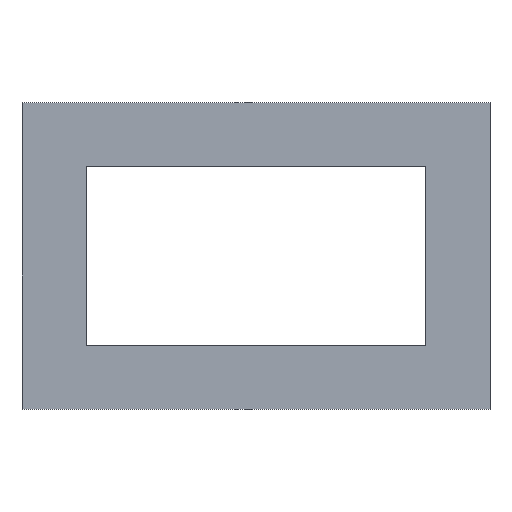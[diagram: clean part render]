
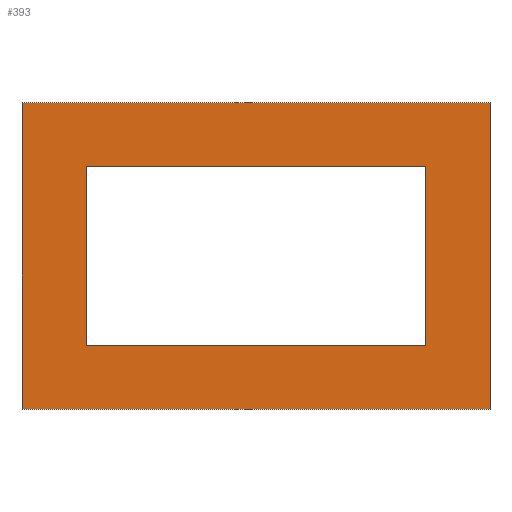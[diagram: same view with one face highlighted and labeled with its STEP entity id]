
A CAD part, top view. The second image highlights one B-rep face of the part: STEP entity #393.
In plain terms, the highlighted planar face has unit normal (0, 0, 1).
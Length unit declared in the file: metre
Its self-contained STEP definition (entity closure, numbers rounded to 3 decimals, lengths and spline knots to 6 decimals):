
#80=ORIENTED_EDGE('',*,*,#161,.T.);
#81=ORIENTED_EDGE('',*,*,#167,.T.);
#82=ORIENTED_EDGE('',*,*,#165,.F.);
#83=ORIENTED_EDGE('',*,*,#163,.F.);
#84=ORIENTED_EDGE('',*,*,#157,.T.);
#85=ORIENTED_EDGE('',*,*,#145,.T.);
#86=ORIENTED_EDGE('',*,*,#159,.F.);
#87=ORIENTED_EDGE('',*,*,#136,.F.);
#136=EDGE_CURVE('',#188,#189,#226,.T.);
#145=EDGE_CURVE('',#197,#196,#235,.T.);
#157=EDGE_CURVE('',#188,#197,#247,.T.);
#159=EDGE_CURVE('',#189,#196,#249,.T.);
#161=EDGE_CURVE('',#207,#206,#251,.T.);
#163=EDGE_CURVE('',#207,#208,#253,.T.);
#165=EDGE_CURVE('',#208,#209,#255,.T.);
#167=EDGE_CURVE('',#206,#209,#257,.T.);
#188=VERTEX_POINT('',#565);
#189=VERTEX_POINT('',#567);
#196=VERTEX_POINT('',#583);
#197=VERTEX_POINT('',#585);
#206=VERTEX_POINT('',#613);
#207=VERTEX_POINT('',#615);
#208=VERTEX_POINT('',#619);
#209=VERTEX_POINT('',#623);
#226=LINE('',#566,#280);
#235=LINE('',#584,#289);
#247=LINE('',#607,#301);
#249=LINE('',#610,#303);
#251=LINE('',#614,#305);
#253=LINE('',#618,#307);
#255=LINE('',#622,#309);
#257=LINE('',#626,#311);
#280=VECTOR('',#459,1.);
#289=VECTOR('',#470,1.);
#301=VECTOR('',#486,1.);
#303=VECTOR('',#490,1.);
#305=VECTOR('',#494,1.);
#307=VECTOR('',#498,1.);
#309=VECTOR('',#502,1.);
#311=VECTOR('',#506,1.);
#330=EDGE_LOOP('',(#80,#81,#82,#83));
#331=EDGE_LOOP('',(#84,#85,#86,#87));
#352=FACE_BOUND('',#330,.T.);
#353=FACE_BOUND('',#331,.T.);
#373=PLANE('',#426);
#393=ADVANCED_FACE('',(#352,#353),#373,.F.);
#426=AXIS2_PLACEMENT_3D('',#627,#507,#508);
#459=DIRECTION('',(0.,-1.,0.));
#470=DIRECTION('',(0.,-1.,0.));
#486=DIRECTION('',(-1.,0.,0.));
#490=DIRECTION('',(-1.,0.,0.));
#494=DIRECTION('',(0.,-1.,0.));
#498=DIRECTION('',(-1.,0.,0.));
#502=DIRECTION('',(0.,-1.,0.));
#506=DIRECTION('',(-1.,0.,0.));
#507=DIRECTION('',(0.,0.,-1.));
#508=DIRECTION('',(1.,0.,0.));
#565=CARTESIAN_POINT('',(0.05461,-0.0121,0.0129));
#566=CARTESIAN_POINT('',(0.05461,-0.04789,0.0129));
#567=CARTESIAN_POINT('',(0.05461,-0.08368,0.0129));
#583=CARTESIAN_POINT('',(-0.05461,-0.08368,0.0129));
#584=CARTESIAN_POINT('',(-0.05461,-0.04789,0.0129));
#585=CARTESIAN_POINT('',(-0.05461,-0.0121,0.0129));
#607=CARTESIAN_POINT('',(0.,-0.0121,0.0129));
#610=CARTESIAN_POINT('',(0.,-0.08368,0.0129));
#613=CARTESIAN_POINT('',(0.03961,-0.06868,0.0129));
#614=CARTESIAN_POINT('',(0.03961,-0.04789,0.0129));
#615=CARTESIAN_POINT('',(0.03961,-0.0271,0.0129));
#618=CARTESIAN_POINT('',(0.,-0.0271,0.0129));
#619=CARTESIAN_POINT('',(-0.03961,-0.0271,0.0129));
#622=CARTESIAN_POINT('',(-0.03961,-0.04789,0.0129));
#623=CARTESIAN_POINT('',(-0.03961,-0.06868,0.0129));
#626=CARTESIAN_POINT('',(0.,-0.06868,0.0129));
#627=CARTESIAN_POINT('',(0.,-0.04964,0.0129));
